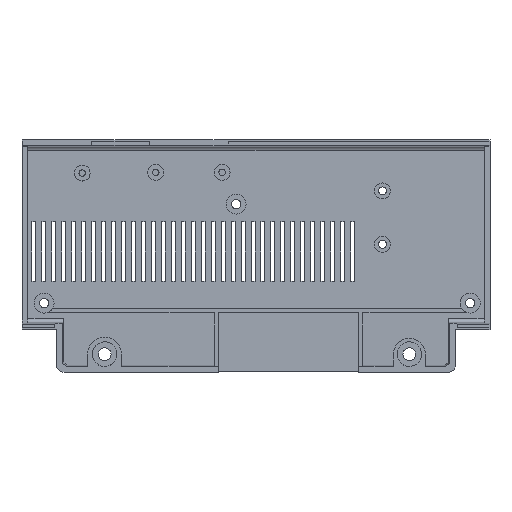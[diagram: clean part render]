
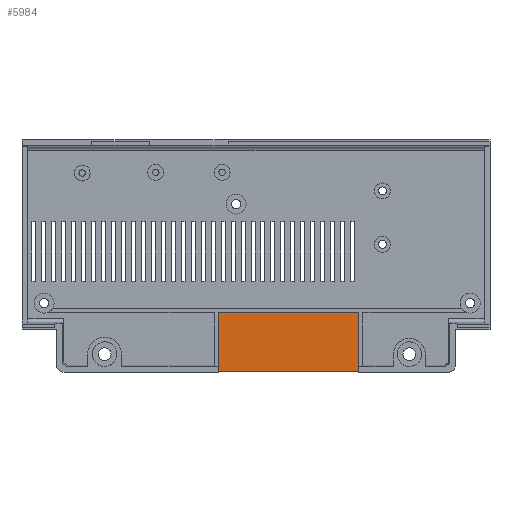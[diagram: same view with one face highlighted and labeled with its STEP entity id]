
A CAD part, top view. The second image highlights one B-rep face of the part: STEP entity #5984.
In plain terms, the highlighted planar face has unit normal (0, 0, 1).
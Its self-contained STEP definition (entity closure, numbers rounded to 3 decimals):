
#32 = B_SPLINE_SURFACE_WITH_KNOTS('',1,1,(
    (#33,#34)
    ,(#35,#36)),.UNSPECIFIED.,.F.,.F.,.F.,(2,2),(2,2),(-1.153,
    200.553),(0.,1.),.PIECEWISE_BEZIER_KNOTS.);
#33 = CARTESIAN_POINT('',(270.2,139.353,0.));
#34 = CARTESIAN_POINT('',(271.353,138.2,22.));
#35 = CARTESIAN_POINT('',(70.8,139.353,0.));
#36 = CARTESIAN_POINT('',(69.647,138.2,22.));
#2707 = VERTEX_POINT('',#2708);
#2708 = CARTESIAN_POINT('',(151.65,139.195,3.));
#2726 = PLANE('',#2727);
#2727 = AXIS2_PLACEMENT_3D('',#2728,#2729,#2730);
#2728 = CARTESIAN_POINT('',(151.65,133.815,3.));
#2729 = DIRECTION('',(-1.,0.,0.));
#2730 = DIRECTION('',(0.,1.,0.));
#2740 = EDGE_CURVE('',#2707,#2741,#2743,.T.);
#2741 = VERTEX_POINT('',#2742);
#2742 = CARTESIAN_POINT('',(222.05,139.195,3.));
#2743 = SURFACE_CURVE('',#2744,(#2747,#2753),.PCURVE_S1.);
#2744 = B_SPLINE_CURVE_WITH_KNOTS('',1,(#2745,#2746),.UNSPECIFIED.,.F.,
  .F.,(2,2),(0.,1.),.PIECEWISE_BEZIER_KNOTS.);
#2745 = CARTESIAN_POINT('',(151.65,139.195,3.));
#2746 = CARTESIAN_POINT('',(222.05,139.195,3.));
#2747 = PCURVE('',#32,#2748);
#2748 = DEFINITIONAL_REPRESENTATION('',(#2749),#2752);
#2749 = B_SPLINE_CURVE_WITH_KNOTS('',1,(#2750,#2751),.UNSPECIFIED.,.F.,
  .F.,(2,2),(0.,1.),.PIECEWISE_BEZIER_KNOTS.);
#2750 = CARTESIAN_POINT('',(118.738,0.136));
#2751 = CARTESIAN_POINT('',(47.636,0.136));
#2752 = ( GEOMETRIC_REPRESENTATION_CONTEXT(2) 
PARAMETRIC_REPRESENTATION_CONTEXT() REPRESENTATION_CONTEXT('2D SPACE',''
  ) );
#2753 = PCURVE('',#2754,#2759);
#2754 = PLANE('',#2755);
#2755 = AXIS2_PLACEMENT_3D('',#2756,#2757,#2758);
#2756 = CARTESIAN_POINT('',(170.609,199.855,3.));
#2757 = DIRECTION('',(0.,0.,1.));
#2758 = DIRECTION('',(0.,1.,0.));
#2759 = DEFINITIONAL_REPRESENTATION('',(#2760),#2763);
#2760 = B_SPLINE_CURVE_WITH_KNOTS('',1,(#2761,#2762),.UNSPECIFIED.,.F.,
  .F.,(2,2),(0.,1.),.PIECEWISE_BEZIER_KNOTS.);
#2761 = CARTESIAN_POINT('',(-60.659,18.959));
#2762 = CARTESIAN_POINT('',(-60.659,-51.441));
#2763 = ( GEOMETRIC_REPRESENTATION_CONTEXT(2) 
PARAMETRIC_REPRESENTATION_CONTEXT() REPRESENTATION_CONTEXT('2D SPACE',''
  ) );
#2785 = PLANE('',#2786);
#2786 = AXIS2_PLACEMENT_3D('',#2787,#2788,#2789);
#2787 = CARTESIAN_POINT('',(222.05,153.891,3.));
#2788 = DIRECTION('',(1.,0.,0.));
#2789 = DIRECTION('',(0.,-1.,0.));
#5308 = PLANE('',#5309);
#5309 = AXIS2_PLACEMENT_3D('',#5310,#5311,#5312);
#5310 = CARTESIAN_POINT('',(170.5,141.772,11.157));
#5311 = DIRECTION('',(0.,0.999,0.052));
#5312 = DIRECTION('',(-1.,0.,0.));
#5684 = EDGE_CURVE('',#5685,#2741,#5687,.T.);
#5685 = VERTEX_POINT('',#5686);
#5686 = CARTESIAN_POINT('',(222.05,142.199,3.));
#5687 = SURFACE_CURVE('',#5688,(#5692,#5699),.PCURVE_S1.);
#5688 = LINE('',#5689,#5690);
#5689 = CARTESIAN_POINT('',(222.05,153.891,3.));
#5690 = VECTOR('',#5691,1.);
#5691 = DIRECTION('',(0.,-1.,0.));
#5692 = PCURVE('',#2785,#5693);
#5693 = DEFINITIONAL_REPRESENTATION('',(#5694),#5698);
#5694 = LINE('',#5695,#5696);
#5695 = CARTESIAN_POINT('',(0.,0.));
#5696 = VECTOR('',#5697,1.);
#5697 = DIRECTION('',(1.,0.));
#5698 = ( GEOMETRIC_REPRESENTATION_CONTEXT(2) 
PARAMETRIC_REPRESENTATION_CONTEXT() REPRESENTATION_CONTEXT('2D SPACE',''
  ) );
#5699 = PCURVE('',#2754,#5700);
#5700 = DEFINITIONAL_REPRESENTATION('',(#5701),#5705);
#5701 = LINE('',#5702,#5703);
#5702 = CARTESIAN_POINT('',(-45.964,-51.441));
#5703 = VECTOR('',#5704,1.);
#5704 = DIRECTION('',(-1.,0.));
#5705 = ( GEOMETRIC_REPRESENTATION_CONTEXT(2) 
PARAMETRIC_REPRESENTATION_CONTEXT() REPRESENTATION_CONTEXT('2D SPACE',''
  ) );
#5984 = ADVANCED_FACE('',(#5985),#2754,.T.);
#5985 = FACE_BOUND('',#5986,.T.);
#5986 = EDGE_LOOP('',(#5987,#5988,#6011,#6039,#6067,#6095,#6123,#6144));
#5987 = ORIENTED_EDGE('',*,*,#5684,.F.);
#5988 = ORIENTED_EDGE('',*,*,#5989,.T.);
#5989 = EDGE_CURVE('',#5685,#5990,#5992,.T.);
#5990 = VERTEX_POINT('',#5991);
#5991 = CARTESIAN_POINT('',(222.2,142.199,3.));
#5992 = SURFACE_CURVE('',#5993,(#5997,#6004),.PCURVE_S1.);
#5993 = LINE('',#5994,#5995);
#5994 = CARTESIAN_POINT('',(256.25,142.199,3.));
#5995 = VECTOR('',#5996,1.);
#5996 = DIRECTION('',(1.,0.,0.));
#5997 = PCURVE('',#2754,#5998);
#5998 = DEFINITIONAL_REPRESENTATION('',(#5999),#6003);
#5999 = LINE('',#6000,#6001);
#6000 = CARTESIAN_POINT('',(-57.655,-85.641));
#6001 = VECTOR('',#6002,1.);
#6002 = DIRECTION('',(0.,-1.));
#6003 = ( GEOMETRIC_REPRESENTATION_CONTEXT(2) 
PARAMETRIC_REPRESENTATION_CONTEXT() REPRESENTATION_CONTEXT('2D SPACE',''
  ) );
#6004 = PCURVE('',#5308,#6005);
#6005 = DEFINITIONAL_REPRESENTATION('',(#6006),#6010);
#6006 = LINE('',#6007,#6008);
#6007 = CARTESIAN_POINT('',(-85.75,-8.168));
#6008 = VECTOR('',#6009,1.);
#6009 = DIRECTION('',(-1.,0.));
#6010 = ( GEOMETRIC_REPRESENTATION_CONTEXT(2) 
PARAMETRIC_REPRESENTATION_CONTEXT() REPRESENTATION_CONTEXT('2D SPACE',''
  ) );
#6011 = ORIENTED_EDGE('',*,*,#6012,.T.);
#6012 = EDGE_CURVE('',#5990,#6013,#6015,.T.);
#6013 = VERTEX_POINT('',#6014);
#6014 = CARTESIAN_POINT('',(222.2,168.55,3.));
#6015 = SURFACE_CURVE('',#6016,(#6020,#6027),.PCURVE_S1.);
#6016 = LINE('',#6017,#6018);
#6017 = CARTESIAN_POINT('',(222.2,184.202,3.));
#6018 = VECTOR('',#6019,1.);
#6019 = DIRECTION('',(0.,1.,0.));
#6020 = PCURVE('',#2754,#6021);
#6021 = DEFINITIONAL_REPRESENTATION('',(#6022),#6026);
#6022 = LINE('',#6023,#6024);
#6023 = CARTESIAN_POINT('',(-15.652,-51.591));
#6024 = VECTOR('',#6025,1.);
#6025 = DIRECTION('',(1.,0.));
#6026 = ( GEOMETRIC_REPRESENTATION_CONTEXT(2) 
PARAMETRIC_REPRESENTATION_CONTEXT() REPRESENTATION_CONTEXT('2D SPACE',''
  ) );
#6027 = PCURVE('',#6028,#6033);
#6028 = PLANE('',#6029);
#6029 = AXIS2_PLACEMENT_3D('',#6030,#6031,#6032);
#6030 = CARTESIAN_POINT('',(222.2,168.55,0.));
#6031 = DIRECTION('',(1.,0.,0.));
#6032 = DIRECTION('',(0.,-1.,0.));
#6033 = DEFINITIONAL_REPRESENTATION('',(#6034),#6038);
#6034 = LINE('',#6035,#6036);
#6035 = CARTESIAN_POINT('',(-15.652,-3.));
#6036 = VECTOR('',#6037,1.);
#6037 = DIRECTION('',(-1.,0.));
#6038 = ( GEOMETRIC_REPRESENTATION_CONTEXT(2) 
PARAMETRIC_REPRESENTATION_CONTEXT() REPRESENTATION_CONTEXT('2D SPACE',''
  ) );
#6039 = ORIENTED_EDGE('',*,*,#6040,.F.);
#6040 = EDGE_CURVE('',#6041,#6013,#6043,.T.);
#6041 = VERTEX_POINT('',#6042);
#6042 = CARTESIAN_POINT('',(151.5,168.55,3.));
#6043 = SURFACE_CURVE('',#6044,(#6048,#6055),.PCURVE_S1.);
#6044 = LINE('',#6045,#6046);
#6045 = CARTESIAN_POINT('',(196.405,168.55,3.));
#6046 = VECTOR('',#6047,1.);
#6047 = DIRECTION('',(1.,0.,0.));
#6048 = PCURVE('',#2754,#6049);
#6049 = DEFINITIONAL_REPRESENTATION('',(#6050),#6054);
#6050 = LINE('',#6051,#6052);
#6051 = CARTESIAN_POINT('',(-31.305,-25.795));
#6052 = VECTOR('',#6053,1.);
#6053 = DIRECTION('',(0.,-1.));
#6054 = ( GEOMETRIC_REPRESENTATION_CONTEXT(2) 
PARAMETRIC_REPRESENTATION_CONTEXT() REPRESENTATION_CONTEXT('2D SPACE',''
  ) );
#6055 = PCURVE('',#6056,#6061);
#6056 = PLANE('',#6057);
#6057 = AXIS2_PLACEMENT_3D('',#6058,#6059,#6060);
#6058 = CARTESIAN_POINT('',(222.2,168.55,0.));
#6059 = DIRECTION('',(0.,-1.,0.));
#6060 = DIRECTION('',(-1.,0.,0.));
#6061 = DEFINITIONAL_REPRESENTATION('',(#6062),#6066);
#6062 = LINE('',#6063,#6064);
#6063 = CARTESIAN_POINT('',(25.795,-3.));
#6064 = VECTOR('',#6065,1.);
#6065 = DIRECTION('',(-1.,-0.));
#6066 = ( GEOMETRIC_REPRESENTATION_CONTEXT(2) 
PARAMETRIC_REPRESENTATION_CONTEXT() REPRESENTATION_CONTEXT('2D SPACE',''
  ) );
#6067 = ORIENTED_EDGE('',*,*,#6068,.T.);
#6068 = EDGE_CURVE('',#6041,#6069,#6071,.T.);
#6069 = VERTEX_POINT('',#6070);
#6070 = CARTESIAN_POINT('',(151.5,142.199,3.));
#6071 = SURFACE_CURVE('',#6072,(#6076,#6083),.PCURVE_S1.);
#6072 = LINE('',#6073,#6074);
#6073 = CARTESIAN_POINT('',(151.5,170.16,3.));
#6074 = VECTOR('',#6075,1.);
#6075 = DIRECTION('',(0.,-1.,0.));
#6076 = PCURVE('',#2754,#6077);
#6077 = DEFINITIONAL_REPRESENTATION('',(#6078),#6082);
#6078 = LINE('',#6079,#6080);
#6079 = CARTESIAN_POINT('',(-29.695,19.109));
#6080 = VECTOR('',#6081,1.);
#6081 = DIRECTION('',(-1.,0.));
#6082 = ( GEOMETRIC_REPRESENTATION_CONTEXT(2) 
PARAMETRIC_REPRESENTATION_CONTEXT() REPRESENTATION_CONTEXT('2D SPACE',''
  ) );
#6083 = PCURVE('',#6084,#6089);
#6084 = PLANE('',#6085);
#6085 = AXIS2_PLACEMENT_3D('',#6086,#6087,#6088);
#6086 = CARTESIAN_POINT('',(151.5,140.466,0.));
#6087 = DIRECTION('',(-1.,0.,0.));
#6088 = DIRECTION('',(0.,1.,0.));
#6089 = DEFINITIONAL_REPRESENTATION('',(#6090),#6094);
#6090 = LINE('',#6091,#6092);
#6091 = CARTESIAN_POINT('',(29.695,-3.));
#6092 = VECTOR('',#6093,1.);
#6093 = DIRECTION('',(-1.,0.));
#6094 = ( GEOMETRIC_REPRESENTATION_CONTEXT(2) 
PARAMETRIC_REPRESENTATION_CONTEXT() REPRESENTATION_CONTEXT('2D SPACE',''
  ) );
#6095 = ORIENTED_EDGE('',*,*,#6096,.T.);
#6096 = EDGE_CURVE('',#6069,#6097,#6099,.T.);
#6097 = VERTEX_POINT('',#6098);
#6098 = CARTESIAN_POINT('',(151.65,142.199,3.));
#6099 = SURFACE_CURVE('',#6100,(#6104,#6111),.PCURVE_S1.);
#6100 = LINE('',#6101,#6102);
#6101 = CARTESIAN_POINT('',(256.25,142.199,3.));
#6102 = VECTOR('',#6103,1.);
#6103 = DIRECTION('',(1.,0.,0.));
#6104 = PCURVE('',#2754,#6105);
#6105 = DEFINITIONAL_REPRESENTATION('',(#6106),#6110);
#6106 = LINE('',#6107,#6108);
#6107 = CARTESIAN_POINT('',(-57.655,-85.641));
#6108 = VECTOR('',#6109,1.);
#6109 = DIRECTION('',(0.,-1.));
#6110 = ( GEOMETRIC_REPRESENTATION_CONTEXT(2) 
PARAMETRIC_REPRESENTATION_CONTEXT() REPRESENTATION_CONTEXT('2D SPACE',''
  ) );
#6111 = PCURVE('',#6112,#6117);
#6112 = PLANE('',#6113);
#6113 = AXIS2_PLACEMENT_3D('',#6114,#6115,#6116);
#6114 = CARTESIAN_POINT('',(170.5,141.772,11.157));
#6115 = DIRECTION('',(0.,0.999,0.052));
#6116 = DIRECTION('',(-1.,0.,0.));
#6117 = DEFINITIONAL_REPRESENTATION('',(#6118),#6122);
#6118 = LINE('',#6119,#6120);
#6119 = CARTESIAN_POINT('',(-85.75,-8.168));
#6120 = VECTOR('',#6121,1.);
#6121 = DIRECTION('',(-1.,0.));
#6122 = ( GEOMETRIC_REPRESENTATION_CONTEXT(2) 
PARAMETRIC_REPRESENTATION_CONTEXT() REPRESENTATION_CONTEXT('2D SPACE',''
  ) );
#6123 = ORIENTED_EDGE('',*,*,#6124,.F.);
#6124 = EDGE_CURVE('',#2707,#6097,#6125,.T.);
#6125 = SURFACE_CURVE('',#6126,(#6130,#6137),.PCURVE_S1.);
#6126 = LINE('',#6127,#6128);
#6127 = CARTESIAN_POINT('',(151.65,133.815,3.));
#6128 = VECTOR('',#6129,1.);
#6129 = DIRECTION('',(0.,1.,0.));
#6130 = PCURVE('',#2754,#6131);
#6131 = DEFINITIONAL_REPRESENTATION('',(#6132),#6136);
#6132 = LINE('',#6133,#6134);
#6133 = CARTESIAN_POINT('',(-66.04,18.959));
#6134 = VECTOR('',#6135,1.);
#6135 = DIRECTION('',(1.,0.));
#6136 = ( GEOMETRIC_REPRESENTATION_CONTEXT(2) 
PARAMETRIC_REPRESENTATION_CONTEXT() REPRESENTATION_CONTEXT('2D SPACE',''
  ) );
#6137 = PCURVE('',#2726,#6138);
#6138 = DEFINITIONAL_REPRESENTATION('',(#6139),#6143);
#6139 = LINE('',#6140,#6141);
#6140 = CARTESIAN_POINT('',(0.,0.));
#6141 = VECTOR('',#6142,1.);
#6142 = DIRECTION('',(1.,0.));
#6143 = ( GEOMETRIC_REPRESENTATION_CONTEXT(2) 
PARAMETRIC_REPRESENTATION_CONTEXT() REPRESENTATION_CONTEXT('2D SPACE',''
  ) );
#6144 = ORIENTED_EDGE('',*,*,#2740,.T.);
